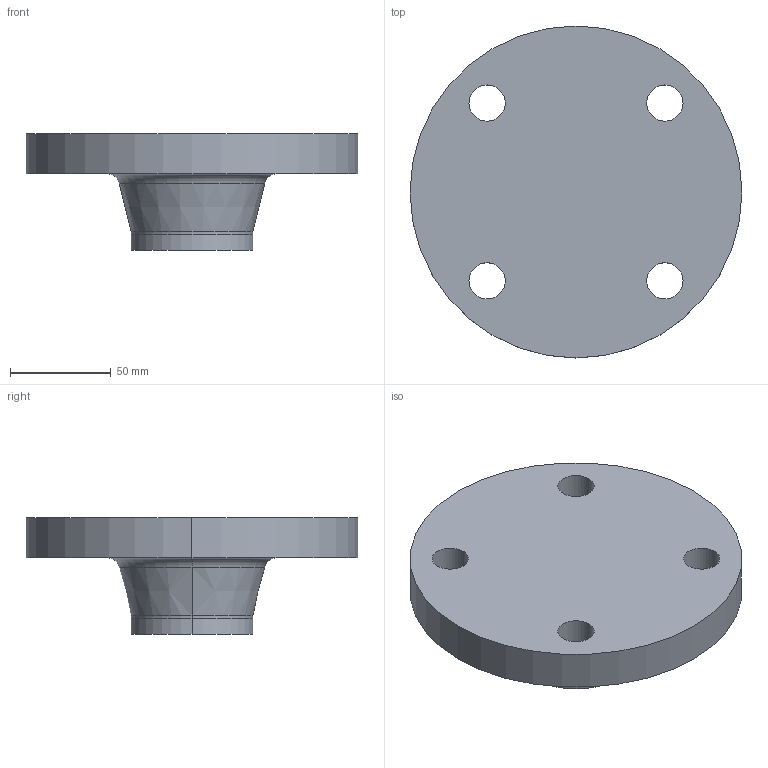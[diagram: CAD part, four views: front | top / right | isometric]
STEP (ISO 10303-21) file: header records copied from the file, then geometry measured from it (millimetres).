
FILE_DESCRIPTION (( 'STEP AP214' ), '1' );
FILE_NAME ('PN40 DN50 Type 21(ii) - Type A Face.STEP', '2018-12-30T03:22:52', ( '' ), ( '' ), 'SwSTEP 2.0', 'SolidWorks 2019', '' );
FILE_SCHEMA (( 'AUTOMOTIVE_DESIGN' ));
Length unit declared in the file: millimetre
Products named in the file (1): PN40 DN50 Type 21(ii) - Type A Face
Bounding box: 165 x 165 x 58 mm (x, y, z)
Volume: 538200 mm3; surface area: 61818.2 mm2
Topology: 1 solids, 1 shells, 21 faces, 48 edges, 30 vertices
Faces by surface type: cylinder 12, torus 4, plane 3, cone 2
Entity records: 658 total; most frequent: DIRECTION 126, CARTESIAN_POINT 100, ORIENTED_EDGE 96, AXIS2_PLACEMENT_3D 56, EDGE_CURVE 48, CIRCLE 34, VERTEX_POINT 30, EDGE_LOOP 30
